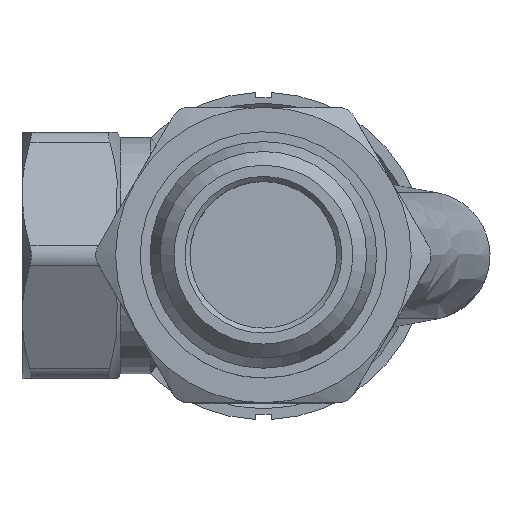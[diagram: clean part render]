
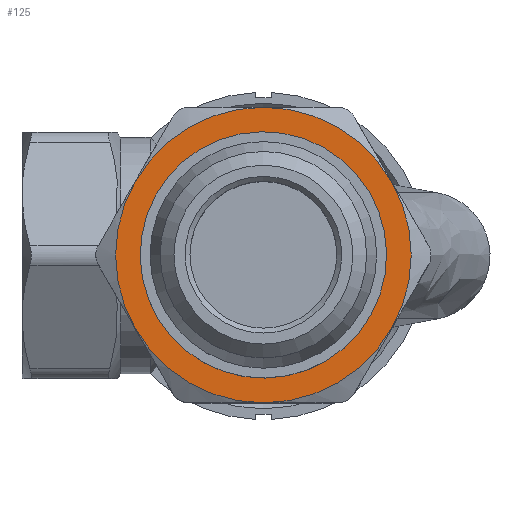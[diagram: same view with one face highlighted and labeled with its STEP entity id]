
A CAD part, top view. The second image highlights one B-rep face of the part: STEP entity #125.
In plain terms, the highlighted planar face has unit normal (0, 0, 1).
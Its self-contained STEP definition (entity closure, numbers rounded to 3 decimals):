
#125=ADVANCED_FACE('',(#799,#801),#803,.T.);
#799=FACE_BOUND('',#800,.T.);
#800=EDGE_LOOP('',(#1843,#1844,#1845,#1846,#1847,#1848));
#801=FACE_BOUND('',#802,.T.);
#802=EDGE_LOOP('',(#1849));
#803=PLANE('',#804);
#804=AXIS2_PLACEMENT_3D('',#805,#806,#807);
#805=CARTESIAN_POINT('',(0.,0.,35.807));
#806=DIRECTION('',(0.,0.,1.));
#807=DIRECTION('',(-1.,0.,0.));
#1843=ORIENTED_EDGE('',*,*,#2712,.T.);
#1844=ORIENTED_EDGE('',*,*,#2711,.T.);
#1845=ORIENTED_EDGE('',*,*,#2716,.T.);
#1846=ORIENTED_EDGE('',*,*,#2715,.T.);
#1847=ORIENTED_EDGE('',*,*,#2714,.T.);
#1848=ORIENTED_EDGE('',*,*,#2713,.T.);
#1849=ORIENTED_EDGE('',*,*,#2718,.T.);
#2711=EDGE_CURVE('',#3190,#3230,#3283,.F.);
#2712=EDGE_CURVE('',#3198,#3190,#3284,.F.);
#2713=EDGE_CURVE('',#3206,#3198,#3285,.F.);
#2714=EDGE_CURVE('',#3214,#3206,#3286,.F.);
#2715=EDGE_CURVE('',#3222,#3214,#3287,.F.);
#2716=EDGE_CURVE('',#3230,#3222,#3288,.F.);
#2718=EDGE_CURVE('',#3291,#3291,#3292,.T.);
#3190=VERTEX_POINT('',#5813);
#3198=VERTEX_POINT('',#5916);
#3206=VERTEX_POINT('',#6021);
#3214=VERTEX_POINT('',#6107);
#3222=VERTEX_POINT('',#6223);
#3230=VERTEX_POINT('',#6328);
#3283=CIRCLE('',#6755,15.);
#3284=CIRCLE('',#6759,15.);
#3285=CIRCLE('',#6763,15.);
#3286=CIRCLE('',#6767,15.);
#3287=CIRCLE('',#6771,15.);
#3288=CIRCLE('',#6775,15.);
#3291=VERTEX_POINT('',#6784);
#3292=CIRCLE('',#6785,10.65);
#5813=CARTESIAN_POINT('',(0.,-15.,35.807));
#5916=CARTESIAN_POINT('',(-12.99,-7.5,35.807));
#6021=CARTESIAN_POINT('',(-12.99,7.5,35.807));
#6107=CARTESIAN_POINT('',(0.,15.,35.807));
#6223=CARTESIAN_POINT('',(12.99,7.5,35.807));
#6328=CARTESIAN_POINT('',(12.99,-7.5,35.807));
#6755=AXIS2_PLACEMENT_3D('',#6756,#6757,#6758);
#6756=CARTESIAN_POINT('',(0.,0.,35.807));
#6757=DIRECTION('',(0.,0.,-1.));
#6758=DIRECTION('',(0.866,-0.5,0.));
#6759=AXIS2_PLACEMENT_3D('',#6760,#6761,#6762);
#6760=CARTESIAN_POINT('',(0.,0.,35.807));
#6761=DIRECTION('',(0.,0.,-1.));
#6762=DIRECTION('',(0.,-1.,0.));
#6763=AXIS2_PLACEMENT_3D('',#6764,#6765,#6766);
#6764=CARTESIAN_POINT('',(0.,0.,35.807));
#6765=DIRECTION('',(0.,0.,-1.));
#6766=DIRECTION('',(-0.866,-0.5,0.));
#6767=AXIS2_PLACEMENT_3D('',#6768,#6769,#6770);
#6768=CARTESIAN_POINT('',(0.,0.,35.807));
#6769=DIRECTION('',(0.,0.,-1.));
#6770=DIRECTION('',(-0.866,0.5,0.));
#6771=AXIS2_PLACEMENT_3D('',#6772,#6773,#6774);
#6772=CARTESIAN_POINT('',(0.,0.,35.807));
#6773=DIRECTION('',(0.,0.,-1.));
#6774=DIRECTION('',(0.,1.,0.));
#6775=AXIS2_PLACEMENT_3D('',#6776,#6777,#6778);
#6776=CARTESIAN_POINT('',(0.,0.,35.807));
#6777=DIRECTION('',(0.,0.,-1.));
#6778=DIRECTION('',(0.866,0.5,0.));
#6784=CARTESIAN_POINT('',(10.65,0.,35.807));
#6785=AXIS2_PLACEMENT_3D('',#6786,#6787,#6788);
#6786=CARTESIAN_POINT('',(0.,0.,35.807));
#6787=DIRECTION('',(0.,0.,-1.));
#6788=DIRECTION('',(1.,0.,0.));
